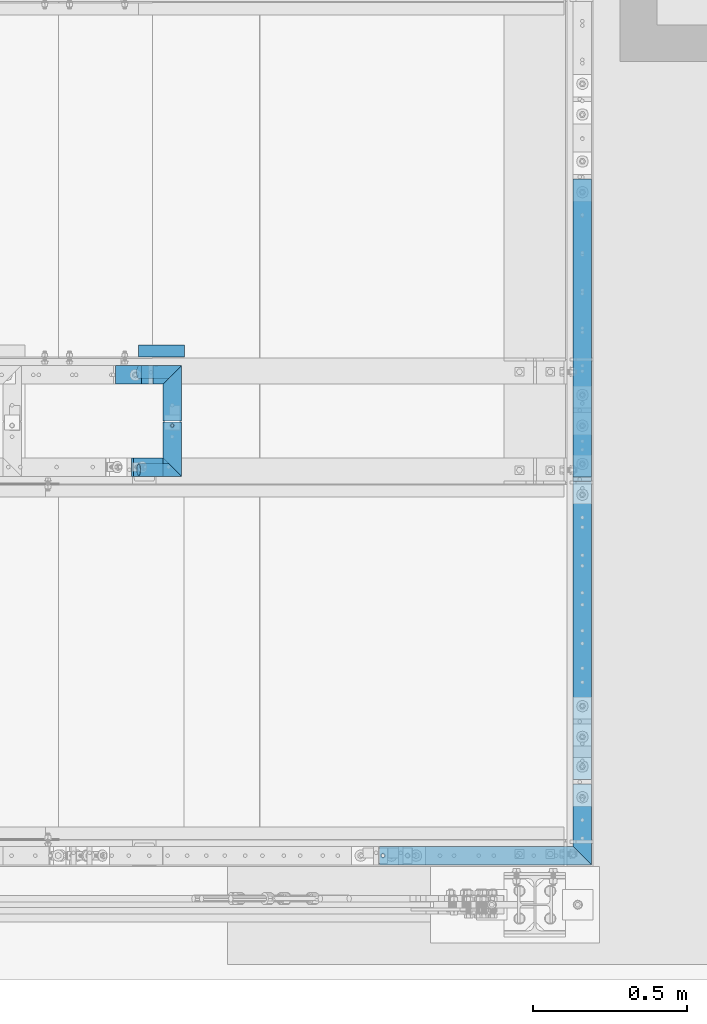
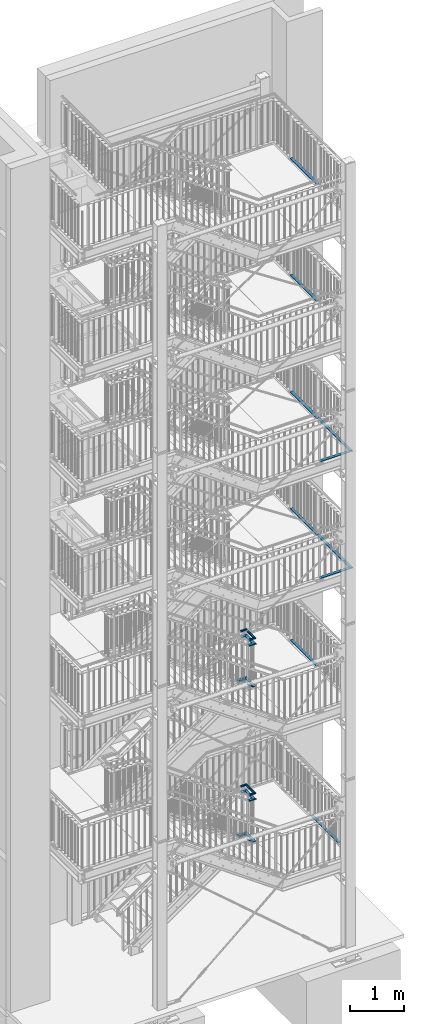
# One storey, part 142 of 831: 38 beams, 2 members, 22 openings.
"""IFC2X3 building model written with IfcOpenShell, lengths in millimetres."""

import ifcopenshell
import ifcopenshell.guid

model = None  # the IFC model being written
_history = None  # IfcOwnerHistory: only IFC2X3 demands one
_inside = {}  # id of a spatial element -> (the spatial element, [elements in it])
_under = {}  # id of a project, library or spatial element -> (it, [spatial elements below it])
_declared = {}  # id of a project -> (the project, [libraries it declares])
_typed = {}  # id of a type object -> (the type object, [elements of that type])
_made_of = {}  # id of a material, layer set ... -> (it, [elements and type objects made of it])


def new_model(schema):
    """Start an empty IFC model of exactly this schema.

    Asked for "IFC4X3", IfcOpenShell would pick the latest addendum, in which some entities
    have other attributes; the version numbers below select the first issue.
    IFC2X3 requires an IfcOwnerHistory on every rooted entity: one is made here for all.
    """
    global model, _history
    if schema == "IFC4X3":
        model = ifcopenshell.file(schema_version=(4, 3, 0, 0))
    else:
        model = ifcopenshell.file(schema=schema)
    _inside.clear()
    _under.clear()
    _declared.clear()
    _typed.clear()
    _made_of.clear()
    _history = None
    if model.schema == "IFC2X3":
        org = make("IfcOrganization", Name="unknown")
        user = make(
            "IfcPersonAndOrganization",
            ThePerson=make("IfcPerson", FamilyName="unknown"),
            TheOrganization=org,
        )
        app = make(
            "IfcApplication",
            ApplicationDeveloper=org,
            Version="unknown",
            ApplicationFullName="unknown",
            ApplicationIdentifier="unknown",
        )
        _history = make(
            "IfcOwnerHistory",
            OwningUser=user,
            OwningApplication=app,
            ChangeAction="ADDED",
            CreationDate=0,
        )
    return model


def make(cls, **values):
    """One entity of the class cls with the attributes given. An attribute that is None is left unset."""
    return model.create_entity(
        cls, **{name: value for name, value in values.items() if value is not None}
    )


def entity(cls, *values):
    """Any entity or typed value of the class cls, its attributes in the order of the schema. None: left unset."""
    e = model.create_entity(cls)
    for i, value in enumerate(values):
        if value is not None:
            e[i] = value
    return e


def rooted(cls, **values):
    """An entity with a GlobalId (a new one), such as an element, a storey or a relation."""
    return make(cls, GlobalId=ifcopenshell.guid.new(), OwnerHistory=_history, **values)


def si_unit(unit_type, name, prefix=None):
    """IfcSIUnit, for example si_unit("LENGTHUNIT", "METRE", prefix="MILLI")."""
    return make("IfcSIUnit", UnitType=unit_type, Prefix=prefix, Name=name)


def converted_unit(unit_type, name, factor, base, dimensions=None, offset=None):
    """IfcConversionBasedUnit, such as the inch: factor (a typed value) times the base unit."""
    return make(
        "IfcConversionBasedUnit"
        if offset is None
        else "IfcConversionBasedUnitWithOffset",
        ConversionOffset=offset,
        Dimensions=None
        if dimensions is None
        else entity("IfcDimensionalExponents", *dimensions),
        UnitType=unit_type,
        Name=name,
        ConversionFactor=make(
            "IfcMeasureWithUnit", ValueComponent=factor, UnitComponent=base
        ),
    )


def assignment(units):
    """IfcUnitAssignment: the units of a project."""
    return None if units is None else make("IfcUnitAssignment", Units=units)


def point(xyz):
    """IfcCartesianPoint."""
    return None if xyz is None else make("IfcCartesianPoint", Coordinates=xyz)


def direction(xyz):
    """IfcDirection."""
    return None if xyz is None else make("IfcDirection", DirectionRatios=xyz)


def frame(location, z_axis=None, x_axis=None):
    """IfcAxis2Placement3D, a coordinate frame: its origin and axes. An axis left out is left unset."""
    return make(
        "IfcAxis2Placement3D",
        Location=point(location),
        Axis=direction(z_axis),
        RefDirection=direction(x_axis),
    )


def frame_2d(location, x_axis=None):
    """IfcAxis2Placement2D, a coordinate frame in the plane: its origin and x axis."""
    return make(
        "IfcAxis2Placement2D", Location=point(location), RefDirection=direction(x_axis)
    )


def origin():
    """The frame at (0, 0, 0) with its axes left unset."""
    return frame((0.0, 0.0, 0.0))


def origin_with_axes():
    """The frame at (0, 0, 0) with the z axis (0, 0, 1) and the x axis (1, 0, 0) written out."""
    return frame((0.0, 0.0, 0.0), z_axis=(0.0, 0.0, 1.0), x_axis=(1.0, 0.0, 0.0))


def origin_2d():
    """The frame at (0, 0) in the plane with its x axis left unset."""
    return frame_2d((0.0, 0.0))


def origin_2d_with_axis():
    """The frame at (0, 0) in the plane with the x axis (1, 0) written out."""
    return frame_2d((0.0, 0.0), x_axis=(1.0, 0.0))


def place(relative_to, where):
    """IfcLocalPlacement: puts the frame where relative to a parent placement (None: the world)."""
    return make(
        "IfcLocalPlacement", PlacementRelTo=relative_to, RelativePlacement=where
    )


def context(
    kind, dimensions, precision=None, world=None, true_north=None, identifier=None
):
    """IfcGeometricRepresentationContext, for example the 3D "Model" context."""
    return make(
        "IfcGeometricRepresentationContext",
        ContextIdentifier=identifier,
        ContextType=kind,
        CoordinateSpaceDimension=dimensions,
        Precision=precision,
        WorldCoordinateSystem=world,
        TrueNorth=true_north,
    )


def project(units=None, contexts=None):
    """IfcProject with its units and contexts."""
    return rooted(
        "IfcProject",
        Name="project",
        RepresentationContexts=contexts,
        UnitsInContext=assignment(units),
    )


def spatial(cls, under=None, at=None, **own):
    """A site, building, storey or space (cls), placed at a placement, below another one or the project."""
    s = rooted(cls, ObjectPlacement=at, **own)
    if under is not None:
        _under.setdefault(under.id(), (under, []))[1].append(s)
    return s


def polyline(points):
    """IfcPolyline through the points."""
    return make("IfcPolyline", Points=[point(p) for p in points])


def profile(cls, at=None, kind="AREA", **sizes):
    """A parametric profile (cls). Its sizes go by their IFC names, for example OverallWidth=200.0."""
    return make(cls, ProfileType=kind, Position=at, **sizes)


def rectangle(**sizes):
    """IfcRectangleProfileDef."""
    return profile("IfcRectangleProfileDef", **sizes)


def circle(**sizes):
    """IfcCircleProfileDef."""
    return profile("IfcCircleProfileDef", **sizes)


def hollow_circle(**sizes):
    """IfcCircleHollowProfileDef."""
    return profile("IfcCircleHollowProfileDef", **sizes)


def l_section(**sizes):
    """IfcLShapeProfileDef."""
    return profile("IfcLShapeProfileDef", **sizes)


def outline(outer, holes=None, kind="AREA"):
    """IfcArbitraryClosedProfileDef: a profile drawn as a closed curve; with holes, ...WithVoids."""
    if holes is None:
        return make("IfcArbitraryClosedProfileDef", ProfileType=kind, OuterCurve=outer)
    return make(
        "IfcArbitraryProfileDefWithVoids",
        ProfileType=kind,
        OuterCurve=outer,
        InnerCurves=holes,
    )


def extrude(swept, where, along, depth):
    """IfcExtrudedAreaSolid: the profile swept, set in the frame where, extruded along a direction by depth."""
    return make(
        "IfcExtrudedAreaSolid",
        SweptArea=swept,
        Position=where,
        ExtrudedDirection=direction(along),
        Depth=depth,
    )


def clip(a, b, op="DIFFERENCE"):
    """IfcBooleanClippingResult: the solid a cut by the half space b."""
    return make(
        "IfcBooleanClippingResult", Operator=op, FirstOperand=a, SecondOperand=b
    )


def halfspace(plane, agree):
    """IfcHalfSpaceSolid: all space on one side of the plane z = 0 of the frame plane."""
    return make(
        "IfcHalfSpaceSolid",
        BaseSurface=make("IfcPlane", Position=plane),
        AgreementFlag=agree,
    )


def shape(context_of_items, identifier, shape_type, items):
    """IfcShapeRepresentation: the items that make up one representation, for example the "Body"."""
    return make(
        "IfcShapeRepresentation",
        ContextOfItems=context_of_items,
        RepresentationIdentifier=identifier,
        RepresentationType=shape_type,
        Items=items,
    )


def material(Name=None, Category=None):
    """IfcMaterial."""
    return make("IfcMaterial", Name=Name, Category=Category)


def made_of(thing, what):
    """Note that an element or type object is made of a material, layer set ...; save() writes the relation."""
    if what is not None:
        _made_of.setdefault(what.id(), (what, []))[1].append(thing)
    return thing


def element(
    cls,
    number,
    at=None,
    inside=None,
    cuts=None,
    type_object=None,
    material=None,
    context=None,
    identifier="Body",
    shape_type=None,
    held_by="IfcProductDefinitionShape",
    body=None,
    shapes=None,
    **own,
):
    """One element of the class cls, such as IfcWall. Its Tag is "e" and its number.

    at: its placement. inside: the storey or other place that contains it. cuts: it is an
    opening in that element (IfcRelVoidsElement). A single representation is given by context,
    identifier, shape_type and body (its items); several are given by shapes. held_by: the class
    of the entity that holds the representations. save() writes the other relations.
    """
    e = rooted(cls, Tag="e%d" % number, ObjectPlacement=at, **own)
    if body is not None:
        shapes = [shape(context, identifier, shape_type, body)]
    if shapes is not None:
        e.Representation = make(held_by, Representations=shapes)
    if inside is not None:
        _inside.setdefault(inside.id(), (inside, []))[1].append(e)
    if cuts is not None:
        rooted(
            "IfcRelVoidsElement", RelatingBuildingElement=cuts, RelatedOpeningElement=e
        )
    if type_object is not None:
        _typed.setdefault(type_object.id(), (type_object, []))[1].append(e)
    return made_of(e, material)


def aggregate(whole, parts):
    """IfcRelAggregates: a whole, such as a stair, and the parts it consists of."""
    return rooted("IfcRelAggregates", RelatingObject=whole, RelatedObjects=parts)


def save(model, path):
    """Write the relations noted so far, then the file.

    IfcRelAggregates (storeys below a building ...), IfcRelContainedInSpatialStructure (elements
    in a storey), IfcRelDefinesByType, IfcRelAssociatesMaterial and IfcRelDeclares: one each for
    every whole, place, type object, material and project.
    """
    for whole, parts in _under.values():
        aggregate(whole, parts)
    for where, things in _inside.values():
        rooted(
            "IfcRelContainedInSpatialStructure",
            RelatedElements=things,
            RelatingStructure=where,
        )
    for kind, things in _typed.values():
        rooted("IfcRelDefinesByType", RelatedObjects=things, RelatingType=kind)
    for what, things in _made_of.values():
        rooted("IfcRelAssociatesMaterial", RelatedObjects=things, RelatingMaterial=what)
    for by, libraries in _declared.values():
        rooted("IfcRelDeclares", RelatingContext=by, RelatedDefinitions=libraries)
    model.write(path)


model = new_model("IFC2X3")

# Units and contexts
model_context = context("Model", 3, precision=1e-09, world=origin_with_axes())
ifc_project = project(units=[si_unit("LENGTHUNIT", "METRE", prefix="MILLI"), si_unit("AREAUNIT", "SQUARE_METRE"), si_unit("VOLUMEUNIT", "CUBIC_METRE"), converted_unit("PLANEANGLEUNIT", "DEGREE", entity("IfcPlaneAngleMeasure", 0.01745329), si_unit("PLANEANGLEUNIT", "RADIAN"), dimensions=[0, 0, 0, 0, 0, 0, 0])], contexts=[model_context])

# Site, building, storey
site_placement = place(None, origin_with_axes())
site = spatial("IfcSite", under=ifc_project, at=site_placement, Name="Site", CompositionType="ELEMENT")
building_placement = place(site_placement, origin_with_axes())
building = spatial("IfcBuilding", under=site, at=building_placement, Name="Struktur 1", CompositionType="ELEMENT")
storey_placement = place(building_placement, origin_with_axes())
storey = spatial("IfcBuildingStorey", under=building, at=storey_placement, Name="Default Storey", CompositionType="ELEMENT", Elevation=0.0)

# Beam, openings
ifc_material = material(Name="S235JR")
beam_1_placement = place(None, frame((9021.713402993, 6736.736257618, 13961.5000001), z_axis=(0.0, 1.0, 0.0), x_axis=(0.0, 0.0, -1.0)))
beam_1 = element("IfcBeam", 1, at=beam_1_placement, inside=storey, material=ifc_material, Name="Railing_Kneerail_Landing#9", ObjectType="Railing_Kneerail_Landing#9", context=model_context, shape_type="SweptSolid", body=[
    extrude(rectangle(XDim=10.0, YDim=60.0, at=origin_2d()), origin(), (0.0, 0.0, -1.0), 985.000142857),
])
opening_1_placement = place(beam_1_placement, frame((60.0, 0.0, -985.000142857), z_axis=(-1.0, 0.0, 0.0), x_axis=(0.0, -1.0, 0.0)))
element("IfcOpeningElement", 2, at=opening_1_placement, cuts=beam_1, ObjectType="Opening", context=model_context, shape_type="SweptSolid", body=[
    extrude(outline(polyline([(-30.001, 977.499142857), (30.001, 977.499142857), (30.001, 992.501142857), (-30.001, 992.501142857), (-30.001, 977.499142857)])), origin(), (0.0, 0.0, 1.0), 120.0),
])
opening_2_placement = place(beam_1_placement, frame((60.0, 0.0, -985.000142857), z_axis=(-1.0, 0.0, 0.0), x_axis=(0.0, -1.0, 0.0)))
element("IfcOpeningElement", 3, at=opening_2_placement, cuts=beam_1, ObjectType="Opening", context=model_context, shape_type="SweptSolid", body=[
    extrude(outline(polyline([(-30.001, -7.501), (30.001, -7.501), (30.001, 7.501), (-30.001, 7.501), (-30.001, -7.501)])), origin(), (0.0, 0.0, 1.0), 120.0),
])

beam_2_placement = place(None, frame((9021.713402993, 6736.736257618, 16589.0000003), z_axis=(0.0, 1.0, 0.0), x_axis=(0.0, 0.0, -1.0)))
beam_2 = element("IfcBeam", 4, at=beam_2_placement, inside=storey, material=ifc_material, Name="Railing_Kneerail_Landing#9", ObjectType="Railing_Kneerail_Landing#9", context=model_context, shape_type="SweptSolid", body=[
    extrude(rectangle(XDim=10.0, YDim=60.0, at=origin_2d()), origin(), (0.0, 0.0, -1.0), 985.000142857),
])
opening_3_placement = place(beam_2_placement, frame((60.0, 0.0, -985.000142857), z_axis=(-1.0, 0.0, 0.0), x_axis=(0.0, -1.0, 0.0)))
element("IfcOpeningElement", 5, at=opening_3_placement, cuts=beam_2, ObjectType="Opening", context=model_context, shape_type="SweptSolid", body=[
    extrude(outline(polyline([(-30.001, 977.499142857), (30.001, 977.499142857), (30.001, 992.501142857), (-30.001, 992.501142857), (-30.001, 977.499142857)])), origin(), (0.0, 0.0, 1.0), 120.0),
])
opening_4_placement = place(beam_2_placement, frame((60.0, 0.0, -985.000142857), z_axis=(-1.0, 0.0, 0.0), x_axis=(0.0, -1.0, 0.0)))
element("IfcOpeningElement", 6, at=opening_4_placement, cuts=beam_2, ObjectType="Opening", context=model_context, shape_type="SweptSolid", body=[
    extrude(outline(polyline([(-30.001, -7.501), (30.001, -7.501), (30.001, 7.501), (-30.001, 7.501), (-30.001, -7.501)])), origin(), (0.0, 0.0, 1.0), 120.0),
])

# Beams
beam_3_placement = place(None, frame((7545.238006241, 6100.536971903, 3321.0526312), z_axis=(-1.0, 0.0, 0.0), x_axis=(0.0, 0.0, -1.0)))
element("IfcBeam", 7, at=beam_3_placement, inside=storey, material=ifc_material, Name="Railing_Handrail_Landing#3", ObjectType="Railing_Handrail_Landing#3", context=model_context, shape_type="Clipping", body=[
    clip(clip(extrude(hollow_circle(Radius=21.2, WallThickness=3.2, at=origin_2d()), origin(), (0.0, 0.0, -1.0), 192.498336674), halfspace(frame((3321.0526312, 6897.935950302, 6747.839027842), z_axis=(0.0, -0.707106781, 0.707106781), x_axis=(0.0, 0.707106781, 0.707106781)), True)), halfspace(frame((816.100663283, 6100.536971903, -292.309687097), z_axis=(-0.304437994, 0.0, -0.952532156), x_axis=(0.0, -1.0, 0.0)), True)),
])
beam_4_placement = place(None, frame((7501.352605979, 6091.736971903, 2246.0526312), z_axis=(-1.0, 0.0, 0.0), x_axis=(0.0, 0.0, -1.0)))
element("IfcBeam", 8, at=beam_4_placement, inside=storey, material=ifc_material, Name="Railing_Kneerail_Landing#3", ObjectType="Railing_Kneerail_Landing#3", context=model_context, shape_type="SweptSolid", body=[
    extrude(rectangle(XDim=10.0, YDim=60.0, at=origin_2d()), origin(), (0.0, 0.0, -1.0), 107.861297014),
])
beam_5_placement = place(None, frame((7624.213902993, 6091.736971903, 2246.0526312), z_axis=(-1.0, 0.0, 0.0), x_axis=(0.0, 0.0, -1.0)))
element("IfcBeam", 9, at=beam_5_placement, inside=storey, material=ifc_material, Name="Railing_Kneerail_Landing#4", ObjectType="Railing_Kneerail_Landing#4", context=model_context, shape_type="Clipping", body=[
    clip(extrude(rectangle(XDim=10.0, YDim=60.0, at=origin_2d()), origin(), (0.0, 0.0, -1.0), 105.334066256), halfspace(frame((2246.0526312, 6889.135950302, 6826.814924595), z_axis=(0.0, -0.707106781, 0.707106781), x_axis=(0.0, 0.707106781, 0.707106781)), True)),
])
beam_6_placement = place(None, frame((7545.267696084, 6100.536971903, 6814.8947367), z_axis=(-1.0, 0.0, 0.0), x_axis=(0.0, 0.0, -1.0)))
element("IfcBeam", 10, at=beam_6_placement, inside=storey, material=ifc_material, Name="Railing_Handrail_Landing#4", ObjectType="Railing_Handrail_Landing#4", context=model_context, shape_type="Clipping", body=[
    clip(clip(extrude(hollow_circle(Radius=21.2, WallThickness=3.2, at=origin_2d()), origin(), (0.0, 0.0, -1.0), 192.047389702), halfspace(frame((6814.8947367, 6897.725321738, 6748.079346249), z_axis=(0.0, -0.707106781, 0.707106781), x_axis=(0.0, 0.707106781, 0.707106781)), True)), halfspace(frame((4016.163485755, 6100.536971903, -1301.924645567), z_axis=(-0.301609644, 0.0, -0.953431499), x_axis=(0.0, -1.0, 0.0)), True)),
])
beam_7_placement = place(None, frame((7500.836877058, 6091.736971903, 5739.8947367), z_axis=(-1.0, 0.0, 0.0), x_axis=(0.0, 0.0, -1.0)))
element("IfcBeam", 11, at=beam_7_placement, inside=storey, material=ifc_material, Name="Railing_Kneerail_Landing#5", ObjectType="Railing_Kneerail_Landing#5", context=model_context, shape_type="SweptSolid", body=[
    extrude(rectangle(XDim=10.0, YDim=60.0, at=origin_2d()), origin(), (0.0, 0.0, -1.0), 108.377025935),
])
beam_8_placement = place(None, frame((7694.915085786, 6142.936971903, 6814.8947367), z_axis=(0.0, 1.0, 0.0), x_axis=(0.0, 0.0, -1.0)))
element("IfcBeam", 12, at=beam_8_placement, inside=storey, material=ifc_material, Name="Railing_Handrail_Landing#5", ObjectType="Railing_Handrail_Landing#5", context=model_context, shape_type="Clipping", body=[
    clip(extrude(hollow_circle(Radius=21.2, WallThickness=3.2, at=origin_2d()), origin(), (0.0, 0.0, -1.0), 201.2), halfspace(frame((6814.8947367, 6897.725321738, -6940.126735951), z_axis=(0.0, -0.707106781, -0.707106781), x_axis=(0.0, -0.707106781, 0.707106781)), True)),
])
beam_9_placement = place(None, frame((7694.915085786, 5938.736971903, 6814.8947367), z_axis=(0.0, 1.0, 0.0), x_axis=(0.0, 0.0, -1.0)))
element("IfcBeam", 13, at=beam_9_placement, inside=storey, material=ifc_material, Name="Railing_Handrail_Landing#5", ObjectType="Railing_Handrail_Landing#5", context=model_context, shape_type="Clipping", body=[
    clip(extrude(hollow_circle(Radius=21.2, WallThickness=3.2, at=origin_2d()), origin(), (0.0, 0.0, -1.0), 198.2), halfspace(frame((6814.8947367, 955.988349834, 800.189764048), z_axis=(0.0, -0.707106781, 0.707106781), x_axis=(0.0, 0.707106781, 0.707106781)), True)),
])
beam_10_placement = place(None, frame((7686.115085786, 6134.748598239, 6688.6947367), z_axis=(0.0, 1.0, 0.0), x_axis=(0.0, 0.0, -1.0)))
element("IfcBeam", 14, at=beam_10_placement, inside=storey, material=ifc_material, Name="Railing_Kneerail_Landing#1007", ObjectType="Railing_Kneerail_Landing#1007", context=model_context, shape_type="Clipping", body=[
    clip(extrude(rectangle(XDim=10.0, YDim=60.0, at=origin_2d()), origin(), (0.0, 0.0, -1.0), 193.011626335), halfspace(frame((6688.6947367, 6888.925321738, -6931.938362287), z_axis=(0.0, -0.707106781, -0.707106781), x_axis=(0.0, -0.707106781, 0.707106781)), True)),
])

# Beam, opening
beam_11_placement = place(None, frame((7686.115085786, 5938.736971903, 6688.6947367), z_axis=(0.0, 1.0, 0.0), x_axis=(0.0, 0.0, -1.0)))
beam_11 = element("IfcBeam", 15, at=beam_11_placement, inside=storey, material=ifc_material, Name="Railing_Kneerail_Landing#1007", ObjectType="Railing_Kneerail_Landing#1007", context=model_context, shape_type="Clipping", body=[
    clip(extrude(rectangle(XDim=10.0, YDim=60.0, at=origin_2d()), origin(), (0.0, 0.0, -1.0), 190.011626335), halfspace(frame((6688.6947367, 947.188349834, 800.189764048), z_axis=(0.0, -0.707106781, 0.707106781), x_axis=(0.0, 0.707106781, 0.707106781)), True)),
])
opening_5_placement = place(beam_11_placement, frame((5.5, 0.0, -6.998999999), z_axis=(1.0, 0.0, 0.0), x_axis=(0.0, 1.0, 0.0)))
element("IfcOpeningElement", 16, at=opening_5_placement, cuts=beam_11, ObjectType="Opening", context=model_context, shape_type="SweptSolid", body=[
    extrude(circle(Radius=5.001, at=frame_2d((0.0, -5.001), x_axis=(1.0, 0.0))), origin(), (0.0, 0.0, -1.0), 11.0),
])

# Beam
beam_12_placement = place(None, frame((7686.115085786, 6134.748598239, 5739.8947367), z_axis=(0.0, 1.0, 0.0), x_axis=(0.0, 0.0, -1.0)))
element("IfcBeam", 17, at=beam_12_placement, inside=storey, material=ifc_material, Name="Railing_Kneerail_Landing#7", ObjectType="Railing_Kneerail_Landing#7", context=model_context, shape_type="Clipping", body=[
    clip(extrude(rectangle(XDim=10.0, YDim=60.0, at=origin_2d()), origin(), (0.0, 0.0, -1.0), 193.011626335), halfspace(frame((5739.8947367, 6888.925321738, -6931.938362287), z_axis=(0.0, -0.707106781, -0.707106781), x_axis=(0.0, -0.707106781, 0.707106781)), True)),
])

# Beam, opening
beam_13_placement = place(None, frame((7686.115085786, 5938.736971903, 5739.8947367), z_axis=(0.0, 1.0, 0.0), x_axis=(0.0, 0.0, -1.0)))
beam_13 = element("IfcBeam", 18, at=beam_13_placement, inside=storey, material=ifc_material, Name="Railing_Kneerail_Landing#7", ObjectType="Railing_Kneerail_Landing#7", context=model_context, shape_type="SweptSolid", body=[
    extrude(rectangle(XDim=10.0, YDim=60.0, at=origin_2d()), origin(), (0.0, 0.0, -1.0), 177.0),
])
opening_6_placement = place(beam_13_placement, frame((5.5, 0.0, -6.998999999), z_axis=(1.0, 0.0, 0.0), x_axis=(0.0, 1.0, 0.0)))
element("IfcOpeningElement", 19, at=opening_6_placement, cuts=beam_13, ObjectType="Opening", context=model_context, shape_type="SweptSolid", body=[
    extrude(circle(Radius=5.001, at=frame_2d((0.0, -5.001), x_axis=(1.0, 0.0))), origin(), (0.0, 0.0, -1.0), 11.0),
])

# Beams
beam_14_placement = place(None, frame((7695.336342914, 6142.936971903, 3321.0526312), z_axis=(0.0, 1.0, 0.0), x_axis=(0.0, 0.0, -1.0)))
element("IfcBeam", 20, at=beam_14_placement, inside=storey, material=ifc_material, Name="Railing_Handrail_Landing#4", ObjectType="Railing_Handrail_Landing#4", context=model_context, shape_type="Clipping", body=[
    clip(extrude(hollow_circle(Radius=21.2, WallThickness=3.2, at=origin_2d()), origin(), (0.0, 0.0, -1.0), 201.2), halfspace(frame((3321.0526312, 6897.935950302, -6940.337364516), z_axis=(0.0, -0.707106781, -0.707106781), x_axis=(0.0, -0.707106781, 0.707106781)), True)),
])
beam_15_placement = place(None, frame((7695.336342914, 5938.736971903, 3321.0526312), z_axis=(0.0, 1.0, 0.0), x_axis=(0.0, 0.0, -1.0)))
element("IfcBeam", 21, at=beam_15_placement, inside=storey, material=ifc_material, Name="Railing_Handrail_Landing#4", ObjectType="Railing_Handrail_Landing#4", context=model_context, shape_type="Clipping", body=[
    clip(extrude(hollow_circle(Radius=21.2, WallThickness=3.2, at=origin_2d()), origin(), (0.0, 0.0, -1.0), 198.2), halfspace(frame((3321.0526312, 956.198978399, 800.400392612), z_axis=(0.0, -0.707106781, 0.707106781), x_axis=(0.0, 0.707106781, 0.707106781)), True)),
])
beam_16_placement = place(None, frame((7686.536342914, 6134.748598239, 3194.8526312), z_axis=(0.0, 1.0, 0.0), x_axis=(0.0, 0.0, -1.0)))
element("IfcBeam", 22, at=beam_16_placement, inside=storey, material=ifc_material, Name="Railing_Kneerail_Landing#1005", ObjectType="Railing_Kneerail_Landing#1005", context=model_context, shape_type="Clipping", body=[
    clip(extrude(rectangle(XDim=10.0, YDim=60.0, at=origin_2d()), origin(), (0.0, 0.0, -1.0), 193.011626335), halfspace(frame((3194.8526312, 6889.135950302, -6932.148990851), z_axis=(0.0, -0.707106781, -0.707106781), x_axis=(0.0, -0.707106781, 0.707106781)), True)),
])

# Beam, opening
beam_17_placement = place(None, frame((7686.536342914, 5938.736971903, 3194.8526312), z_axis=(0.0, 1.0, 0.0), x_axis=(0.0, 0.0, -1.0)))
beam_17 = element("IfcBeam", 23, at=beam_17_placement, inside=storey, material=ifc_material, Name="Railing_Kneerail_Landing#1005", ObjectType="Railing_Kneerail_Landing#1005", context=model_context, shape_type="Clipping", body=[
    clip(extrude(rectangle(XDim=10.0, YDim=60.0, at=origin_2d()), origin(), (0.0, 0.0, -1.0), 190.011626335), halfspace(frame((3194.8526312, 947.398978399, 800.400392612), z_axis=(0.0, -0.707106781, 0.707106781), x_axis=(0.0, 0.707106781, 0.707106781)), True)),
])
opening_7_placement = place(beam_17_placement, frame((5.5, 0.0, -6.998999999), z_axis=(1.0, 0.0, 0.0), x_axis=(0.0, 1.0, 0.0)))
element("IfcOpeningElement", 24, at=opening_7_placement, cuts=beam_17, ObjectType="Opening", context=model_context, shape_type="SweptSolid", body=[
    extrude(circle(Radius=5.001, at=frame_2d((0.0, -5.001), x_axis=(1.0, 0.0))), origin(), (0.0, 0.0, -1.0), 11.0),
])

# Beam
beam_18_placement = place(None, frame((7686.536342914, 6134.748598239, 2246.0526312), z_axis=(0.0, 1.0, 0.0), x_axis=(0.0, 0.0, -1.0)))
element("IfcBeam", 25, at=beam_18_placement, inside=storey, material=ifc_material, Name="Railing_Kneerail_Landing#5", ObjectType="Railing_Kneerail_Landing#5", context=model_context, shape_type="Clipping", body=[
    clip(extrude(rectangle(XDim=10.0, YDim=60.0, at=origin_2d()), origin(), (0.0, 0.0, -1.0), 193.011626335), halfspace(frame((2246.0526312, 6889.135950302, -6932.148990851), z_axis=(0.0, -0.707106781, -0.707106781), x_axis=(0.0, -0.707106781, 0.707106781)), True)),
])

# Beam, opening
beam_19_placement = place(None, frame((7686.536342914, 5938.736971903, 2246.0526312), z_axis=(0.0, 1.0, 0.0), x_axis=(0.0, 0.0, -1.0)))
beam_19 = element("IfcBeam", 26, at=beam_19_placement, inside=storey, material=ifc_material, Name="Railing_Kneerail_Landing#5", ObjectType="Railing_Kneerail_Landing#5", context=model_context, shape_type="SweptSolid", body=[
    extrude(rectangle(XDim=10.0, YDim=60.0, at=origin_2d()), origin(), (0.0, 0.0, -1.0), 177.0),
])
opening_8_placement = place(beam_19_placement, frame((5.5, 0.0, -6.998999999), z_axis=(1.0, 0.0, 0.0), x_axis=(0.0, 1.0, 0.0)))
element("IfcOpeningElement", 27, at=opening_8_placement, cuts=beam_19, ObjectType="Opening", context=model_context, shape_type="SweptSolid", body=[
    extrude(circle(Radius=5.001, at=frame_2d((0.0, -5.001), x_axis=(1.0, 0.0))), origin(), (0.0, 0.0, -1.0), 11.0),
])

# Beam, openings
beam_20_placement = place(None, frame((9021.713402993, 5976.351913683, 2246.0526312), z_axis=(0.0, 1.0, 0.0), x_axis=(0.0, 0.0, -1.0)))
beam_20 = element("IfcBeam", 28, at=beam_20_placement, inside=storey, material=ifc_material, Name="Railing_Kneerail_Landing#8", ObjectType="Railing_Kneerail_Landing#8", context=model_context, shape_type="SweptSolid", body=[
    extrude(rectangle(XDim=10.0, YDim=60.0, at=origin_2d()), origin(), (0.0, 0.0, -1.0), 1013.077117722),
])
opening_9_placement = place(beam_20_placement, frame((60.0, 0.0, -1013.077117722), z_axis=(-1.0, 0.0, 0.0), x_axis=(0.0, -1.0, 0.0)))
element("IfcOpeningElement", 29, at=opening_9_placement, cuts=beam_20, ObjectType="Opening", context=model_context, shape_type="SweptSolid", body=[
    extrude(outline(polyline([(-30.001, 1005.576117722), (30.001, 1005.576117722), (30.001, 1020.578117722), (-30.001, 1020.578117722), (-30.001, 1005.576117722)])), origin(), (0.0, 0.0, 1.0), 120.0),
])
opening_10_placement = place(beam_20_placement, frame((60.0, 0.0, -1013.077117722), z_axis=(-1.0, 0.0, 0.0), x_axis=(0.0, -1.0, 0.0)))
element("IfcOpeningElement", 30, at=opening_10_placement, cuts=beam_20, ObjectType="Opening", context=model_context, shape_type="SweptSolid", body=[
    extrude(outline(polyline([(-30.001, -7.501), (30.001, -7.501), (30.001, 7.501), (-30.001, 7.501), (-30.001, -7.501)])), origin(), (0.0, 0.0, 1.0), 120.0),
])

beam_21_placement = place(None, frame((9021.713402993, 6736.736257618, 5739.8947367), z_axis=(0.0, 1.0, 0.0), x_axis=(0.0, 0.0, -1.0)))
beam_21 = element("IfcBeam", 31, at=beam_21_placement, inside=storey, material=ifc_material, Name="Railing_Kneerail_Landing#9", ObjectType="Railing_Kneerail_Landing#9", context=model_context, shape_type="SweptSolid", body=[
    extrude(rectangle(XDim=10.0, YDim=60.0, at=origin_2d()), origin(), (0.0, 0.0, -1.0), 985.000142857),
])
opening_11_placement = place(beam_21_placement, frame((60.0, 0.0, -985.000142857), z_axis=(-1.0, 0.0, 0.0), x_axis=(0.0, -1.0, 0.0)))
element("IfcOpeningElement", 32, at=opening_11_placement, cuts=beam_21, ObjectType="Opening", context=model_context, shape_type="SweptSolid", body=[
    extrude(outline(polyline([(-30.001, 977.499142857), (30.001, 977.499142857), (30.001, 992.501142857), (-30.001, 992.501142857), (-30.001, 977.499142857)])), origin(), (0.0, 0.0, 1.0), 120.0),
])
opening_12_placement = place(beam_21_placement, frame((60.0, 0.0, -985.000142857), z_axis=(-1.0, 0.0, 0.0), x_axis=(0.0, -1.0, 0.0)))
element("IfcOpeningElement", 33, at=opening_12_placement, cuts=beam_21, ObjectType="Opening", context=model_context, shape_type="SweptSolid", body=[
    extrude(outline(polyline([(-30.001, -7.501), (30.001, -7.501), (30.001, 7.501), (-30.001, 7.501), (-30.001, -7.501)])), origin(), (0.0, 0.0, 1.0), 120.0),
])

# Beams
for number, where, z_axis, x_axis, name in (
    (34, (7726.713402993, 6160.936971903, 5663.6947367), (1.0, 0.0, 0.0), (0.0, 0.0, -1.0), "TopLanding#3"),
    (35, (7726.713402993, 6160.936971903, 2169.8526312), (1.0, 0.0, 0.0), (0.0, 0.0, -1.0), "TopLanding#3"),
):
    element("IfcBeam", number, at=place(None, frame(where, z_axis=z_axis, x_axis=x_axis)), inside=storey, material=ifc_material, Name=name, ObjectType="TopLanding#3", context=model_context, shape_type="SweptSolid", body=[
        extrude(l_section(Depth=40.0, Width=40.0, Thickness=4.0, FilletRadius=6.0, EdgeRadius=3.0, at=frame_2d((8.8, 8.8))), origin(), (0.0, 0.0, -1.0), 150.0),
    ])
beam_22_placement = place(None, frame((7624.213902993, 6091.736971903, 5739.8947367), z_axis=(-1.0, 0.0, 0.0), x_axis=(0.0, 0.0, -1.0)))
element("IfcBeam", 36, at=beam_22_placement, inside=storey, material=ifc_material, Name="Railing_Kneerail_Landing#6", ObjectType="Railing_Kneerail_Landing#6", context=model_context, shape_type="Clipping", body=[
    clip(extrude(rectangle(XDim=10.0, YDim=60.0, at=origin_2d()), origin(), (0.0, 0.0, -1.0), 104.912809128), halfspace(frame((5739.8947367, 6888.925321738, 6827.025553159), z_axis=(0.0, -0.707106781, 0.707106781), x_axis=(0.0, 0.707106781, 0.707106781)), True)),
])
beam_23_placement = place(None, frame((7737.736342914, 5782.936971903, 3321.0526312), z_axis=(1.0, 0.0, 0.0), x_axis=(0.0, 0.0, -1.0)))
element("IfcBeam", 37, at=beam_23_placement, inside=storey, material=ifc_material, Name="Railing_Handrail_Landing#2", ObjectType="Railing_Handrail_Landing#2", context=model_context, shape_type="Clipping", body=[
    clip(clip(extrude(hollow_circle(Radius=21.2, WallThickness=3.2, at=origin_2d()), origin(), (0.0, 0.0, -1.0), 192.498336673), halfspace(frame((3321.0526312, 956.198978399, -998.600392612), z_axis=(0.0, -0.707106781, -0.707106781), x_axis=(0.0, -0.707106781, 0.707106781)), True)), halfspace(frame((5210.397729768, -5782.936971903, -1826.312687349), z_axis=(0.304437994, 0.0, 0.952532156), x_axis=(0.0, 1.0, 0.0)), True)),
])

# Member
member_1_placement = place(None, frame((7653.210611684, 5791.736971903, 2246.3812885), z_axis=(0.814635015, 0.0, -0.579973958), x_axis=(-0.579973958, 0.0, -0.814635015)))
element("IfcMember", 38, at=member_1_placement, inside=storey, material=ifc_material, Name="Railing_Kneerail_Stair#1", ObjectType="Railing_Kneerail_Stair#1", context=model_context, shape_type="SweptSolid", body=[
    extrude(rectangle(XDim=10.0, YDim=60.0, at=origin_2d()), origin(), (0.0, 0.0, -1.0), 117.962445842),
])

# Beams
beam_24_placement = place(None, frame((7769.726029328, 5791.736971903, 3194.8526312), z_axis=(1.0, 0.0, 0.0), x_axis=(0.0, 0.0, -1.0)))
element("IfcBeam", 39, at=beam_24_placement, inside=storey, material=ifc_material, Name="Railing_Kneerail_Landing#1000", ObjectType="Railing_Kneerail_Landing#1000", context=model_context, shape_type="Clipping", body=[
    clip(extrude(rectangle(XDim=10.0, YDim=60.0, at=origin_2d()), origin(), (0.0, 0.0, -1.0), 199.788340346), halfspace(frame((3194.8526312, 947.398978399, -1030.590079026), z_axis=(0.0, -0.707106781, -0.707106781), x_axis=(0.0, -0.707106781, 0.707106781)), True)),
])
beam_25_placement = place(None, frame((7737.315085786, 5782.936971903, 6814.8947367), z_axis=(1.0, 0.0, 0.0), x_axis=(0.0, 0.0, -1.0)))
element("IfcBeam", 40, at=beam_25_placement, inside=storey, material=ifc_material, Name="Railing_Handrail_Landing#2", ObjectType="Railing_Handrail_Landing#2", context=model_context, shape_type="Clipping", body=[
    clip(clip(extrude(hollow_circle(Radius=21.2, WallThickness=3.2, at=origin_2d()), origin(), (0.0, 0.0, -1.0), 192.047389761), halfspace(frame((6814.8947367, 955.988349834, -998.389764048), z_axis=(0.0, -0.707106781, -0.707106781), x_axis=(0.0, -0.707106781, 0.707106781)), True)), halfspace(frame((8373.746157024, -5782.936971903, -2809.561361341), z_axis=(0.301609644, 0.0, 0.953431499), x_axis=(0.0, 1.0, 0.0)), True)),
])

# Member
member_2_placement = place(None, frame((7653.119789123, 5791.736971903, 5740.634222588), z_axis=(0.818063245, 0.0, -0.57512827), x_axis=(-0.57512827, 0.0, -0.818063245)))
element("IfcMember", 41, at=member_2_placement, inside=storey, material=ifc_material, Name="Railing_Kneerail_Stair#1", ObjectType="Railing_Kneerail_Stair#1", context=model_context, shape_type="SweptSolid", body=[
    extrude(rectangle(XDim=10.0, YDim=60.0, at=origin_2d()), origin(), (0.0, 0.0, -1.0), 117.38670001),
])

# Beams
beam_26_placement = place(None, frame((7769.726029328, 5791.736971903, 6688.6947367), z_axis=(1.0, 0.0, 0.0), x_axis=(0.0, 0.0, -1.0)))
element("IfcBeam", 42, at=beam_26_placement, inside=storey, material=ifc_material, Name="Railing_Kneerail_Landing#1000", ObjectType="Railing_Kneerail_Landing#1000", context=model_context, shape_type="Clipping", body=[
    clip(extrude(rectangle(XDim=10.0, YDim=60.0, at=origin_2d()), origin(), (0.0, 0.0, -1.0), 199.719059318), halfspace(frame((6688.6947367, 947.188349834, -1030.80070759), z_axis=(0.0, -0.707106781, -0.707106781), x_axis=(0.0, -0.707106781, 0.707106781)), True)),
])
beam_27_placement = place(None, frame((7586.583247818, 6091.736971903, 6688.6947367), z_axis=(-1.0, 0.0, 0.0), x_axis=(0.0, 0.0, -1.0)))
element("IfcBeam", 43, at=beam_27_placement, inside=storey, material=ifc_material, Name="Railing_Kneerail_Landing#1005", ObjectType="Railing_Kneerail_Landing#1005", context=model_context, shape_type="Clipping", body=[
    clip(extrude(rectangle(XDim=10.0, YDim=60.0, at=origin_2d()), origin(), (0.0, 0.0, -1.0), 142.543464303), halfspace(frame((6688.6947367, 6888.925321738, 6789.394897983), z_axis=(0.0, -0.707106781, 0.707106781), x_axis=(0.0, 0.707106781, 0.707106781)), True)),
])
beam_28_placement = place(None, frame((7586.685208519, 6091.736971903, 3194.8526312), z_axis=(-1.0, 0.0, 0.0), x_axis=(0.0, 0.0, -1.0)))
element("IfcBeam", 44, at=beam_28_placement, inside=storey, material=ifc_material, Name="Railing_Kneerail_Landing#1003", ObjectType="Railing_Kneerail_Landing#1003", context=model_context, shape_type="Clipping", body=[
    clip(extrude(rectangle(XDim=10.0, YDim=60.0, at=origin_2d()), origin(), (0.0, 0.0, -1.0), 142.86276073), halfspace(frame((3194.8526312, 6889.135950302, 6789.28623012), z_axis=(0.0, -0.707106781, 0.707106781), x_axis=(0.0, 0.707106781, 0.707106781)), True)),
])

# Beam, openings
beam_29_placement = place(None, frame((9021.713402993, 6736.736257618, 8701.0), z_axis=(0.0, 1.0, 0.0), x_axis=(0.0, 0.0, -1.0)))
beam_29 = element("IfcBeam", 45, at=beam_29_placement, inside=storey, material=ifc_material, Name="Railing_Kneerail_Landing#9", ObjectType="Railing_Kneerail_Landing#9", context=model_context, shape_type="SweptSolid", body=[
    extrude(rectangle(XDim=10.0, YDim=60.0, at=origin_2d()), origin(), (0.0, 0.0, -1.0), 985.000142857),
])
opening_13_placement = place(beam_29_placement, frame((60.0, 0.0, -985.000142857), z_axis=(-1.0, 0.0, 0.0), x_axis=(0.0, -1.0, 0.0)))
element("IfcOpeningElement", 46, at=opening_13_placement, cuts=beam_29, ObjectType="Opening", context=model_context, shape_type="SweptSolid", body=[
    extrude(outline(polyline([(-30.001, 977.499142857), (30.001, 977.499142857), (30.001, 992.501142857), (-30.001, 992.501142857), (-30.001, 977.499142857)])), origin(), (0.0, 0.0, 1.0), 120.0),
])
opening_14_placement = place(beam_29_placement, frame((60.0, 0.0, -985.000142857), z_axis=(-1.0, 0.0, 0.0), x_axis=(0.0, -1.0, 0.0)))
element("IfcOpeningElement", 47, at=opening_14_placement, cuts=beam_29, ObjectType="Opening", context=model_context, shape_type="SweptSolid", body=[
    extrude(outline(polyline([(-30.001, -7.501), (30.001, -7.501), (30.001, 7.501), (-30.001, 7.501), (-30.001, -7.501)])), origin(), (0.0, 0.0, 1.0), 120.0),
])

beam_30_placement = place(None, frame((9021.713402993, 5751.736114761, 8701.0), z_axis=(0.0, 1.0, 0.0), x_axis=(0.0, 0.0, -1.0)))
beam_30 = element("IfcBeam", 48, at=beam_30_placement, inside=storey, material=ifc_material, Name="Railing_Kneerail_Landing#10", ObjectType="Railing_Kneerail_Landing#10", context=model_context, shape_type="SweptSolid", body=[
    extrude(rectangle(XDim=10.0, YDim=60.0, at=origin_2d()), origin(), (0.0, 0.0, -1.0), 985.000142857),
])
opening_15_placement = place(beam_30_placement, frame((60.0, 0.0, -985.000142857), z_axis=(-1.0, 0.0, 0.0), x_axis=(0.0, -1.0, 0.0)))
element("IfcOpeningElement", 49, at=opening_15_placement, cuts=beam_30, ObjectType="Opening", context=model_context, shape_type="SweptSolid", body=[
    extrude(outline(polyline([(-30.001, 977.499142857), (30.001, 977.499142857), (30.001, 992.501142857), (-30.001, 992.501142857), (-30.001, 977.499142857)])), origin(), (0.0, 0.0, 1.0), 120.0),
])
opening_16_placement = place(beam_30_placement, frame((60.0, 0.0, -985.000142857), z_axis=(-1.0, 0.0, 0.0), x_axis=(0.0, -1.0, 0.0)))
element("IfcOpeningElement", 50, at=opening_16_placement, cuts=beam_30, ObjectType="Opening", context=model_context, shape_type="SweptSolid", body=[
    extrude(outline(polyline([(-30.001, -7.501), (30.001, -7.501), (30.001, 7.501), (-30.001, 7.501), (-30.001, -7.501)])), origin(), (0.0, 0.0, 1.0), 120.0),
])

# Beam
beam_31_placement = place(None, frame((9021.713402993, 4759.235971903, 8701.0), z_axis=(0.0, 1.0, 0.0), x_axis=(0.0, 0.0, -1.0)))
element("IfcBeam", 51, at=beam_31_placement, inside=storey, material=ifc_material, Name="Railing_Kneerail_Landing#11", ObjectType="Railing_Kneerail_Landing#11", context=model_context, shape_type="Clipping", body=[
    clip(extrude(rectangle(XDim=10.0, YDim=60.0, at=origin_2d()), origin(), (0.0, 0.0, -1.0), 275.510626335), halfspace(frame((8701.0, 2247.487508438, 2014.989922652), z_axis=(0.0, -0.707106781, 0.707106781), x_axis=(0.0, 0.707106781, 0.707106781)), True)),
])

# Beam, opening
beam_32_placement = place(None, frame((9064.725029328, 4526.736971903, 8701.0), z_axis=(1.0, 0.0, 0.0), x_axis=(0.0, 0.0, -1.0)))
beam_32 = element("IfcBeam", 52, at=beam_32_placement, inside=storey, material=ifc_material, Name="Railing_Kneerail_Landing#12", ObjectType="Railing_Kneerail_Landing#12", context=model_context, shape_type="Clipping", body=[
    clip(extrude(rectangle(XDim=10.0, YDim=60.0, at=origin_2d()), origin(), (0.0, 0.0, -1.0), 704.432769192), halfspace(frame((8701.0, 2247.487508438, -2290.500548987), z_axis=(0.0, -0.707106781, -0.707106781), x_axis=(0.0, -0.707106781, 0.707106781)), True)),
])
opening_17_placement = place(beam_32_placement, frame((5.5, 0.0, -692.432769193), z_axis=(-1.0, 0.0, 0.0), x_axis=(0.0, 0.0, 1.0)))
element("IfcOpeningElement", 53, at=opening_17_placement, cuts=beam_32, ObjectType="Opening", context=model_context, shape_type="SweptSolid", body=[
    extrude(circle(Radius=5.001, at=origin_2d_with_axis()), origin(), (0.0, 0.0, 1.0), 11.0),
])

# Beam, openings
beam_33_placement = place(None, frame((9021.713402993, 6736.736257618, 11330.5000003), z_axis=(0.0, 1.0, 0.0), x_axis=(0.0, 0.0, -1.0)))
beam_33 = element("IfcBeam", 54, at=beam_33_placement, inside=storey, material=ifc_material, Name="Railing_Kneerail_Landing#9", ObjectType="Railing_Kneerail_Landing#9", context=model_context, shape_type="SweptSolid", body=[
    extrude(rectangle(XDim=10.0, YDim=60.0, at=origin_2d()), origin(), (0.0, 0.0, -1.0), 985.000142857),
])
opening_18_placement = place(beam_33_placement, frame((60.0, 0.0, -985.000142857), z_axis=(-1.0, 0.0, 0.0), x_axis=(0.0, -1.0, 0.0)))
element("IfcOpeningElement", 55, at=opening_18_placement, cuts=beam_33, ObjectType="Opening", context=model_context, shape_type="SweptSolid", body=[
    extrude(outline(polyline([(-30.001, 977.499142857), (30.001, 977.499142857), (30.001, 992.501142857), (-30.001, 992.501142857), (-30.001, 977.499142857)])), origin(), (0.0, 0.0, 1.0), 120.0),
])
opening_19_placement = place(beam_33_placement, frame((60.0, 0.0, -985.000142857), z_axis=(-1.0, 0.0, 0.0), x_axis=(0.0, -1.0, 0.0)))
element("IfcOpeningElement", 56, at=opening_19_placement, cuts=beam_33, ObjectType="Opening", context=model_context, shape_type="SweptSolid", body=[
    extrude(outline(polyline([(-30.001, -7.501), (30.001, -7.501), (30.001, 7.501), (-30.001, 7.501), (-30.001, -7.501)])), origin(), (0.0, 0.0, 1.0), 120.0),
])

beam_34_placement = place(None, frame((9021.713402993, 5751.736114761, 11330.5000003), z_axis=(0.0, 1.0, 0.0), x_axis=(0.0, 0.0, -1.0)))
beam_34 = element("IfcBeam", 57, at=beam_34_placement, inside=storey, material=ifc_material, Name="Railing_Kneerail_Landing#10", ObjectType="Railing_Kneerail_Landing#10", context=model_context, shape_type="SweptSolid", body=[
    extrude(rectangle(XDim=10.0, YDim=60.0, at=origin_2d()), origin(), (0.0, 0.0, -1.0), 985.000142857),
])
opening_20_placement = place(beam_34_placement, frame((60.0, 0.0, -985.000142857), z_axis=(-1.0, 0.0, 0.0), x_axis=(0.0, -1.0, 0.0)))
element("IfcOpeningElement", 58, at=opening_20_placement, cuts=beam_34, ObjectType="Opening", context=model_context, shape_type="SweptSolid", body=[
    extrude(outline(polyline([(-30.001, 977.499142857), (30.001, 977.499142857), (30.001, 992.501142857), (-30.001, 992.501142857), (-30.001, 977.499142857)])), origin(), (0.0, 0.0, 1.0), 120.0),
])
opening_21_placement = place(beam_34_placement, frame((60.0, 0.0, -985.000142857), z_axis=(-1.0, 0.0, 0.0), x_axis=(0.0, -1.0, 0.0)))
element("IfcOpeningElement", 59, at=opening_21_placement, cuts=beam_34, ObjectType="Opening", context=model_context, shape_type="SweptSolid", body=[
    extrude(outline(polyline([(-30.001, -7.501), (30.001, -7.501), (30.001, 7.501), (-30.001, 7.501), (-30.001, -7.501)])), origin(), (0.0, 0.0, 1.0), 120.0),
])

# Beam
beam_35_placement = place(None, frame((9021.713402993, 4759.235971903, 11330.5000003), z_axis=(0.0, 1.0, 0.0), x_axis=(0.0, 0.0, -1.0)))
element("IfcBeam", 60, at=beam_35_placement, inside=storey, material=ifc_material, Name="Railing_Kneerail_Landing#11", ObjectType="Railing_Kneerail_Landing#11", context=model_context, shape_type="Clipping", body=[
    clip(extrude(rectangle(XDim=10.0, YDim=60.0, at=origin_2d()), origin(), (0.0, 0.0, -1.0), 275.510626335), halfspace(frame((11330.5000003, 2247.487508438, 2014.989922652), z_axis=(0.0, -0.707106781, 0.707106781), x_axis=(0.0, 0.707106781, 0.707106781)), True)),
])

# Beam, opening
beam_36_placement = place(None, frame((9064.725029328, 4526.736971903, 11330.5000003), z_axis=(1.0, 0.0, 0.0), x_axis=(0.0, 0.0, -1.0)))
beam_36 = element("IfcBeam", 61, at=beam_36_placement, inside=storey, material=ifc_material, Name="Railing_Kneerail_Landing#12", ObjectType="Railing_Kneerail_Landing#12", context=model_context, shape_type="Clipping", body=[
    clip(extrude(rectangle(XDim=10.0, YDim=60.0, at=origin_2d()), origin(), (0.0, 0.0, -1.0), 704.432769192), halfspace(frame((11330.5000003, 2247.487508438, -2290.500548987), z_axis=(0.0, -0.707106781, -0.707106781), x_axis=(0.0, -0.707106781, 0.707106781)), True)),
])
opening_22_placement = place(beam_36_placement, frame((5.5, 0.0, -692.432769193), z_axis=(-1.0, 0.0, 0.0), x_axis=(0.0, 0.0, 1.0)))
element("IfcOpeningElement", 62, at=opening_22_placement, cuts=beam_36, ObjectType="Opening", context=model_context, shape_type="SweptSolid", body=[
    extrude(circle(Radius=5.001, at=origin_2d_with_axis()), origin(), (0.0, 0.0, 1.0), 11.0),
])

save(model, "model.ifc")
